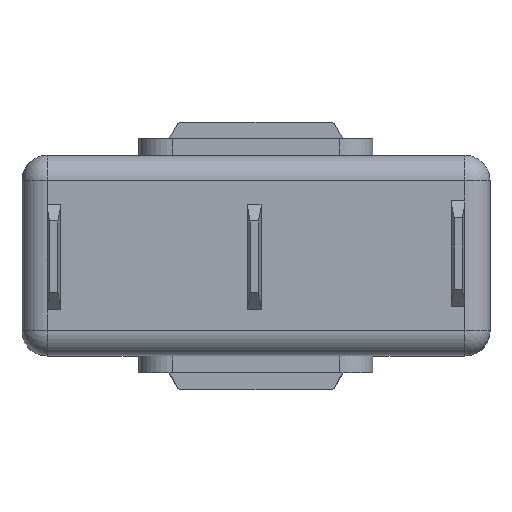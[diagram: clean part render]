
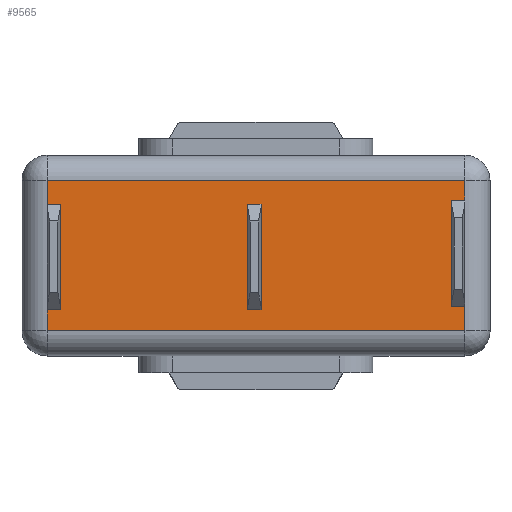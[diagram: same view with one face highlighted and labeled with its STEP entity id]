
A CAD part, top view. The second image highlights one B-rep face of the part: STEP entity #9565.
In plain terms, the highlighted planar face has unit normal (0, 0, 1).
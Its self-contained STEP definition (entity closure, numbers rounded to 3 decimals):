
#2105=DIRECTION('',(0.,1.,0.));
#2106=VECTOR('',#2105,6.3);
#2107=CARTESIAN_POINT('',(-11.7,-3.25,11.));
#2108=LINE('',#2107,#2106);
#2109=DIRECTION('',(1.,0.,0.));
#2110=VECTOR('',#2109,0.8);
#2111=CARTESIAN_POINT('',(-12.5,3.05,11.));
#2112=LINE('',#2111,#2110);
#2113=DIRECTION('',(1.,0.,0.));
#2114=VECTOR('',#2113,25.);
#2115=CARTESIAN_POINT('',(-12.5,4.5,11.));
#2116=LINE('',#2115,#2114);
#2117=DIRECTION('',(-1.,0.,0.));
#2118=VECTOR('',#2117,0.8);
#2119=CARTESIAN_POINT('',(12.5,3.25,11.));
#2120=LINE('',#2119,#2118);
#2121=DIRECTION('',(0.,-1.,0.));
#2122=VECTOR('',#2121,6.3);
#2123=CARTESIAN_POINT('',(11.7,3.25,11.));
#2124=LINE('',#2123,#2122);
#2125=DIRECTION('',(-1.,0.,0.));
#2126=VECTOR('',#2125,0.8);
#2127=CARTESIAN_POINT('',(12.5,-3.05,11.));
#2128=LINE('',#2127,#2126);
#2129=DIRECTION('',(1.,0.,0.));
#2130=VECTOR('',#2129,25.);
#2131=CARTESIAN_POINT('',(-12.5,-4.5,11.));
#2132=LINE('',#2131,#2130);
#2133=DIRECTION('',(1.,0.,0.));
#2134=VECTOR('',#2133,0.8);
#2135=CARTESIAN_POINT('',(-12.5,-3.25,11.));
#2136=LINE('',#2135,#2134);
#2137=DIRECTION('',(0.,1.,0.));
#2138=VECTOR('',#2137,6.3);
#2139=CARTESIAN_POINT('',(-0.5,-3.25,11.));
#2140=LINE('',#2139,#2138);
#2141=DIRECTION('',(1.,0.,0.));
#2142=VECTOR('',#2141,0.8);
#2143=CARTESIAN_POINT('',(-0.5,-3.25,11.));
#2144=LINE('',#2143,#2142);
#2145=DIRECTION('',(0.,1.,0.));
#2146=VECTOR('',#2145,6.3);
#2147=CARTESIAN_POINT('',(0.3,-3.25,11.));
#2148=LINE('',#2147,#2146);
#2149=DIRECTION('',(1.,0.,0.));
#2150=VECTOR('',#2149,0.8);
#2151=CARTESIAN_POINT('',(-0.5,3.05,11.));
#2152=LINE('',#2151,#2150);
#2217=DIRECTION('',(0.,-1.,0.));
#2218=VECTOR('',#2217,1.25);
#2219=CARTESIAN_POINT('',(-12.5,-3.25,11.));
#2220=LINE('',#2219,#2218);
#2225=DIRECTION('',(0.,-1.,0.));
#2226=VECTOR('',#2225,1.45);
#2227=CARTESIAN_POINT('',(-12.5,4.5,11.));
#2228=LINE('',#2227,#2226);
#2271=DIRECTION('',(0.,1.,0.));
#2272=VECTOR('',#2271,1.25);
#2273=CARTESIAN_POINT('',(12.5,3.25,11.));
#2274=LINE('',#2273,#2272);
#2279=DIRECTION('',(0.,1.,0.));
#2280=VECTOR('',#2279,1.45);
#2281=CARTESIAN_POINT('',(12.5,-4.5,11.));
#2282=LINE('',#2281,#2280);
#5952=CARTESIAN_POINT('',(-12.5,-4.5,11.));
#5953=CARTESIAN_POINT('',(12.5,-4.5,11.));
#5954=VERTEX_POINT('',#5952);
#5955=VERTEX_POINT('',#5953);
#5972=CARTESIAN_POINT('',(-12.5,4.5,11.));
#5973=CARTESIAN_POINT('',(12.5,4.5,11.));
#5974=VERTEX_POINT('',#5972);
#5975=VERTEX_POINT('',#5973);
#6260=CARTESIAN_POINT('',(12.5,3.25,11.));
#6261=CARTESIAN_POINT('',(12.5,-3.05,11.));
#6262=VERTEX_POINT('',#6260);
#6263=VERTEX_POINT('',#6261);
#6264=CARTESIAN_POINT('',(11.7,3.25,11.));
#6265=CARTESIAN_POINT('',(11.7,-3.05,11.));
#6266=VERTEX_POINT('',#6264);
#6267=VERTEX_POINT('',#6265);
#6376=CARTESIAN_POINT('',(-12.5,-3.25,11.));
#6377=CARTESIAN_POINT('',(-12.5,3.05,11.));
#6378=VERTEX_POINT('',#6376);
#6379=VERTEX_POINT('',#6377);
#6380=CARTESIAN_POINT('',(-11.7,-3.25,11.));
#6381=CARTESIAN_POINT('',(-11.7,3.05,11.));
#6382=VERTEX_POINT('',#6380);
#6383=VERTEX_POINT('',#6381);
#6484=CARTESIAN_POINT('',(-0.5,-3.25,11.));
#6485=CARTESIAN_POINT('',(-0.5,3.05,11.));
#6486=VERTEX_POINT('',#6484);
#6487=VERTEX_POINT('',#6485);
#6488=CARTESIAN_POINT('',(0.3,-3.25,11.));
#6489=CARTESIAN_POINT('',(0.3,3.05,11.));
#6490=VERTEX_POINT('',#6488);
#6491=VERTEX_POINT('',#6489);
#9525=CARTESIAN_POINT('',(14.,-7.,11.));
#9526=DIRECTION('',(0.,0.,1.));
#9527=DIRECTION('',(0.,1.,0.));
#9528=AXIS2_PLACEMENT_3D('',#9525,#9526,#9527);
#9529=PLANE('',#9528);
#9531=ORIENTED_EDGE('',*,*,#9530,.T.);
#9533=ORIENTED_EDGE('',*,*,#9532,.F.);
#9535=ORIENTED_EDGE('',*,*,#9534,.F.);
#9536=ORIENTED_EDGE('',*,*,#9516,.T.);
#9538=ORIENTED_EDGE('',*,*,#9537,.F.);
#9540=ORIENTED_EDGE('',*,*,#9539,.T.);
#9542=ORIENTED_EDGE('',*,*,#9541,.T.);
#9544=ORIENTED_EDGE('',*,*,#9543,.F.);
#9546=ORIENTED_EDGE('',*,*,#9545,.F.);
#9548=ORIENTED_EDGE('',*,*,#9547,.F.);
#9550=ORIENTED_EDGE('',*,*,#9549,.F.);
#9552=ORIENTED_EDGE('',*,*,#9551,.T.);
#9553=EDGE_LOOP('',(#9531,#9533,#9535,#9536,#9538,#9540,#9542,#9544,#9546,#9548,
#9550,#9552));
#9554=FACE_OUTER_BOUND('',#9553,.F.);
#9556=ORIENTED_EDGE('',*,*,#9555,.F.);
#9558=ORIENTED_EDGE('',*,*,#9557,.T.);
#9560=ORIENTED_EDGE('',*,*,#9559,.T.);
#9562=ORIENTED_EDGE('',*,*,#9561,.F.);
#9563=EDGE_LOOP('',(#9556,#9558,#9560,#9562));
#9564=FACE_BOUND('',#9563,.F.);
#9565=ADVANCED_FACE('',(#9554,#9564),#9529,.T.);
#9516=EDGE_CURVE('',#5974,#5975,#2116,.T.);
#9530=EDGE_CURVE('',#6382,#6383,#2108,.T.);
#9532=EDGE_CURVE('',#6379,#6383,#2112,.T.);
#9534=EDGE_CURVE('',#5974,#6379,#2228,.T.);
#9537=EDGE_CURVE('',#6262,#5975,#2274,.T.);
#9539=EDGE_CURVE('',#6262,#6266,#2120,.T.);
#9541=EDGE_CURVE('',#6266,#6267,#2124,.T.);
#9543=EDGE_CURVE('',#6263,#6267,#2128,.T.);
#9545=EDGE_CURVE('',#5955,#6263,#2282,.T.);
#9547=EDGE_CURVE('',#5954,#5955,#2132,.T.);
#9549=EDGE_CURVE('',#6378,#5954,#2220,.T.);
#9551=EDGE_CURVE('',#6378,#6382,#2136,.T.);
#9555=EDGE_CURVE('',#6486,#6487,#2140,.T.);
#9557=EDGE_CURVE('',#6486,#6490,#2144,.T.);
#9559=EDGE_CURVE('',#6490,#6491,#2148,.T.);
#9561=EDGE_CURVE('',#6487,#6491,#2152,.T.);
